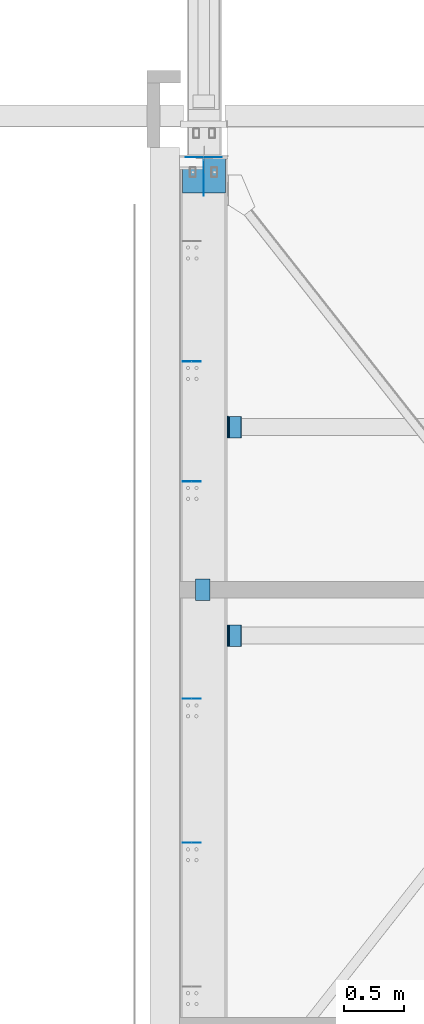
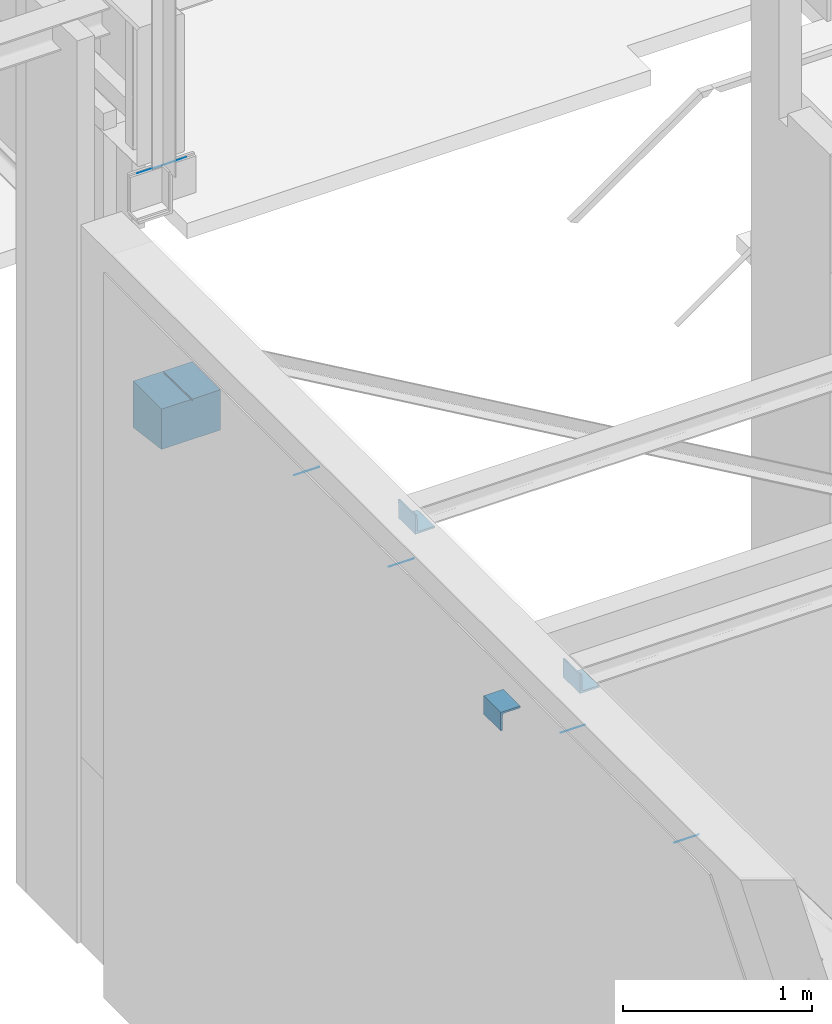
# One storey, part 15 of 186: 11 beams.
"""IFC4X3_ADD2 building model written with IfcOpenShell, lengths in millimetres."""

from ifc_helpers import new_model, entity, si_unit, direction, frame, frame_2d, origin_with_axes, place, context, subcontext, project, spatial, rectangle, l_section, extrude, material, element, save


model = new_model("IFC4X3_ADD2")

# Units and contexts
model_context = context("Model", 3, precision=1e-05, world=origin_with_axes(), true_north=direction((0.0, 1.0)))
body_context = subcontext(model_context, "Body", "Model", "MODEL_VIEW")
ifc_project = project(units=[si_unit("LENGTHUNIT", "METRE", prefix="MILLI"), si_unit("AREAUNIT", "SQUARE_METRE"), si_unit("VOLUMEUNIT", "CUBIC_METRE"), si_unit("PLANEANGLEUNIT", "RADIAN"), si_unit("TIMEUNIT", "SECOND"), si_unit("MASSUNIT", "GRAM")], contexts=[model_context])

# Site, building, storey
site_placement = place(None, origin_with_axes())
site = spatial("IfcSite", under=ifc_project, at=site_placement, Name="Site", CompositionType="ELEMENT")
building_placement = place(site_placement, origin_with_axes())
building = spatial("IfcBuilding", under=site, at=building_placement, Name="IFC Building Story")
storey_placement = place(building_placement, frame((0.0, 0.0, 4370.0), z_axis=(0.0, 0.0, 1.0), x_axis=(1.0, 0.0, 0.0)))
storey = spatial("IfcBuildingStorey", under=building, at=storey_placement, Name="ETAGE 10 (1)", Elevation=4370.0)

# Beams
ifc_material_1 = material(Name="STEEL/Accessory_C60/75")
beam_1_placement = place(storey_placement, frame((33225.1882547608, -150.000036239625, 2599.903), z_axis=(1.0, 0.0, 0.0), x_axis=(0.0, 0.0, 1.0)))
element("IfcBeam", 1, at=beam_1_placement, inside=storey, material=ifc_material_1, Name="BEK1", ObjectType="CORBEL300-300-260", context=body_context, shape_type="SweptSolid", body=[
    extrude(entity("IfcTrapeziumProfileDef", "AREA", None, entity("IfcAxis2Placement2D", entity("IfcCartesianPoint", [0.0, 5.95523630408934e-12]), entity("IfcDirection", [1.0, 0.0])), 300.0, 260.0, 300.0, 40.0), origin_with_axes(), (0.0, 0.0, 1.0), 360.0),
])
ifc_material_2 = material(Name="BS_28_Métal")
beam_2_placement = place(storey_placement, frame((33656.18934820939, -4079.760511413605, 3137.854936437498), z_axis=(0.0, 0.9998875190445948, -0.01499830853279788), x_axis=(0.0, 0.01499830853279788, 0.9998875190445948)))
element("IfcBeam", 2, at=beam_2_placement, inside=storey, material=ifc_material_2, Name="C_28_104 - Cornière symétrique:L120x120x12", ObjectType="L120x120x12", context=body_context, shape_type="SweptSolid", body=[
    extrude(l_section(Depth=120.0000000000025, Width=120.0, Thickness=12.00000000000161, FilletRadius=13.0000000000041, EdgeRadius=4.799999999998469, LegSlope=0.0, at=frame_2d((0.0, 5.95523630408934e-12), x_axis=(1.0, 0.0))), origin_with_axes(), (0.0, 0.0, 1.0), 180.0007083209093),
])
beam_3_placement = place(storey_placement, frame((33656.18934820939, -2339.981543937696, 3110.128037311), z_axis=(0.0, 0.9998875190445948, -0.01499830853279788), x_axis=(0.0, 0.01499830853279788, 0.9998875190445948)))
element("IfcBeam", 3, at=beam_3_placement, inside=storey, material=ifc_material_2, Name="C_28_104 - Cornière symétrique:L120x120x12", ObjectType="L120x120x12", context=body_context, shape_type="SweptSolid", body=[
    extrude(l_section(Depth=120.0000000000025, Width=120.0, Thickness=12.00000000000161, FilletRadius=13.0000000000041, EdgeRadius=4.799999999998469, LegSlope=0.0, at=frame_2d((0.0, 5.95523630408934e-12), x_axis=(1.0, 0.0))), origin_with_axes(), (0.0, 0.0, 1.0), 180.0000897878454),
])
for number, where, z_axis, x_axis, name in (
    (4, (33394.1893482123, -3696.251009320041, 2754.794100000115), (0.0, 1.0, 0.0), (1.0, 0.0, 0.0), "C_28_104 - Cornière symétrique:L120x120x12"),
    (5, (33394.18934821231, -3696.251009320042, 2754.794100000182), (0.0, 1.0, 0.0), (1.0, 0.0, 0.0), "C_28_104 - Cornière symétrique:L120x120x12"),
):
    element("IfcBeam", number, at=place(storey_placement, frame(where, z_axis=z_axis, x_axis=x_axis)), inside=storey, material=ifc_material_2, Name=name, ObjectType="L120x120x12", context=body_context, shape_type="SweptSolid", body=[
        extrude(l_section(Depth=120.0000000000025, Width=120.0, Thickness=12.00000000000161, FilletRadius=13.0000000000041, EdgeRadius=4.799999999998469, LegSlope=0.0, at=frame_2d((0.0, 5.95523630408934e-12), x_axis=(1.0, 0.0))), origin_with_axes(), (0.0, 0.0, 1.0), 180.0),
    ])
ifc_material_3 = material(Name="STEEL/Accessory_invisible 261")
beam_4_placement = place(storey_placement, frame((33550.6905081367, 0.501068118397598, 4079.50041961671), z_axis=(-1.0, 0.0, 0.0), x_axis=(0.0, 1.0, 0.0)))
element("IfcBeam", 6, at=beam_4_placement, inside=storey, material=ifc_material_3, Name="52", ObjectType="1*1 3", context=body_context, shape_type="SweptSolid", body=[
    extrude(rectangle(XDim=0.9999999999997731, YDim=0.9999999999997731, at=frame_2d((0.0, 5.95523630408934e-12), x_axis=(1.0, 0.0))), origin_with_axes(), (0.0, 0.0, 1.0), 300.0),
])
beam_5_placement = place(storey_placement, frame((33400.6876994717, -169.9220369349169, 2757.49516132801), z_axis=(1.0, 0.0, 0.0), x_axis=(0.0, 0.01553419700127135, 0.9998793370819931)))
element("IfcBeam", 7, at=beam_5_placement, inside=storey, material=ifc_material_3, Name="BEK4", ObjectType="10*1", context=body_context, shape_type="SweptSolid", body=[
    extrude(rectangle(XDim=9.999999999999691, YDim=300.036218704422, at=frame_2d((0.0, 5.95523630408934e-12), x_axis=(1.0, 0.0))), origin_with_axes(), (0.0, 0.0, 1.0), 1.0),
])
for number, where, z_axis, x_axis, name in (
    (8, (33375.683164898, -1703.654519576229, 3175.97571397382), (-1.0, 0.0, 0.0), (0.0, 0.9998873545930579, -0.01500926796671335), "54"),
    (9, (33375.683164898, -5717.101327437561, 3238.32971397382), (-1.0, 0.0, 0.0), (0.0, 0.9998873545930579, -0.01500926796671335), "54"),
    (10, (33375.683164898, -4517.100564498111, 3219.68571397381), (-1.0, 0.0, 0.0), (0.0, 0.9998873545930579, -0.01500926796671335), "54"),
    (11, (33375.683164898, -2703.65451957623, 3191.511713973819), (-1.0, 0.0, 0.0), (0.0, 0.9998873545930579, -0.01500926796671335), "54"),
):
    element("IfcBeam", number, at=place(storey_placement, frame(where, z_axis=z_axis, x_axis=x_axis)), inside=storey, material=ifc_material_3, Name=name, ObjectType="1*1 3", context=body_context, shape_type="SweptSolid", body=[
        extrude(rectangle(XDim=0.9999999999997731, YDim=0.9999999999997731, at=frame_2d((0.0, 5.95523630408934e-12), x_axis=(1.0, 0.0))), origin_with_axes(), (0.0, 0.0, 1.0), 150.0),
    ])

save(model, "model.ifc")
